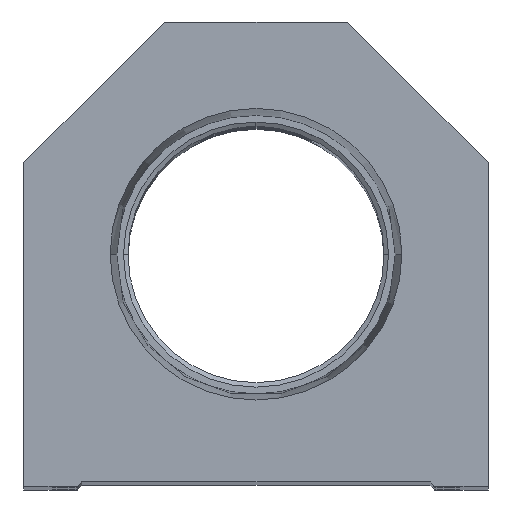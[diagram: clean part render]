
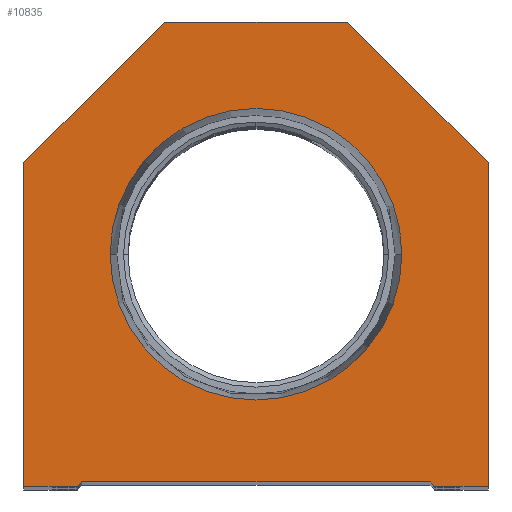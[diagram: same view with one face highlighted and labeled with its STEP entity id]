
A CAD part, top view. The second image highlights one B-rep face of the part: STEP entity #10835.
In plain terms, the highlighted planar face has unit normal (0, 0, 1).
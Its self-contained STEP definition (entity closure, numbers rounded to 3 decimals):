
#148 = CARTESIAN_POINT ( 'NONE',  ( 25.4, 0., 0. ) ) ;
#389 = CARTESIAN_POINT ( 'NONE',  ( 0., 0., 0. ) ) ;
#467 = DIRECTION ( 'NONE',  ( 1., 0., 0. ) ) ;
#590 = VECTOR ( 'NONE', #3143, 1000. ) ;
#602 = LINE ( 'NONE', #10429, #590 ) ;
#1099 = EDGE_CURVE ( 'NONE', #14783, #13867, #1332, .T. ) ;
#1166 = EDGE_CURVE ( 'NONE', #13884, #5005, #5475, .T. ) ;
#1174 = CARTESIAN_POINT ( 'NONE',  ( -19.05, 0.5, 0. ) ) ;
#1246 = EDGE_CURVE ( 'NONE', #14482, #8454, #11375, .T. ) ;
#1332 = LINE ( 'NONE', #1411, #8098 ) ;
#1411 = CARTESIAN_POINT ( 'NONE',  ( 10., 50.8, 0. ) ) ;
#1944 = CARTESIAN_POINT ( 'NONE',  ( 25.4, 0., 0. ) ) ;
#2073 = LINE ( 'NONE', #7213, #5984 ) ;
#2098 = CARTESIAN_POINT ( 'NONE',  ( -25.4, 0., 0. ) ) ;
#2430 = PLANE ( 'NONE',  #6440 ) ;
#2589 = CARTESIAN_POINT ( 'NONE',  ( 0., 25.4, 0. ) ) ;
#2915 = CARTESIAN_POINT ( 'NONE',  ( -19.05, 0.5, 0. ) ) ;
#2960 = EDGE_CURVE ( 'NONE', #12139, #7264, #5821, .T. ) ;
#2972 = LINE ( 'NONE', #10954, #15954 ) ;
#3143 = DIRECTION ( 'NONE',  ( 0.707, -0.707, 0. ) ) ;
#3161 = EDGE_CURVE ( 'NONE', #15812, #7886, #602, .T. ) ;
#3485 = CARTESIAN_POINT ( 'NONE',  ( 15.947, 25.4, 0. ) ) ;
#3848 = DIRECTION ( 'NONE',  ( 0., 0., 1. ) ) ;
#3873 = CARTESIAN_POINT ( 'NONE',  ( 25.4, 35.4, 0. ) ) ;
#3983 = EDGE_CURVE ( 'NONE', #8454, #15812, #9752, .T. ) ;
#4043 = EDGE_CURVE ( 'NONE', #13867, #10353, #2073, .T. ) ;
#4115 = DIRECTION ( 'NONE',  ( 1., 0., 0. ) ) ;
#4137 = DIRECTION ( 'NONE',  ( 0., 0., 1. ) ) ;
#4208 = EDGE_CURVE ( 'NONE', #10353, #6887, #2972, .T. ) ;
#4217 = CARTESIAN_POINT ( 'NONE',  ( 0., 25.4, 0. ) ) ;
#4384 = ORIENTED_EDGE ( 'NONE', *, *, #14925, .T. ) ;
#5005 = VERTEX_POINT ( 'NONE', #8925 ) ;
#5160 = DIRECTION ( 'NONE',  ( -1., 0., 0. ) ) ;
#5475 = CIRCLE ( 'NONE', #11794, 15.947 ) ;
#5588 = CARTESIAN_POINT ( 'NONE',  ( -19.05, 0., 0. ) ) ;
#5600 = ORIENTED_EDGE ( 'NONE', *, *, #8706, .F. ) ;
#5679 = LINE ( 'NONE', #8070, #11700 ) ;
#5793 = ORIENTED_EDGE ( 'NONE', *, *, #9949, .T. ) ;
#5821 = LINE ( 'NONE', #1944, #14286 ) ;
#5984 = VECTOR ( 'NONE', #13631, 1000. ) ;
#6440 = AXIS2_PLACEMENT_3D ( 'NONE', #389, #7972, #14395 ) ;
#6537 = CARTESIAN_POINT ( 'NONE',  ( -25.4, 35.4, 0. ) ) ;
#6887 = VERTEX_POINT ( 'NONE', #2098 ) ;
#7213 = CARTESIAN_POINT ( 'NONE',  ( -25.4, 35.4, 0. ) ) ;
#7264 = VERTEX_POINT ( 'NONE', #12976 ) ;
#7504 = ORIENTED_EDGE ( 'NONE', *, *, #3983, .T. ) ;
#7886 = VERTEX_POINT ( 'NONE', #14246 ) ;
#7910 = DIRECTION ( 'NONE',  ( -0.707, 0.707, 0. ) ) ;
#7972 = DIRECTION ( 'NONE',  ( 0., 0., 1. ) ) ;
#8070 = CARTESIAN_POINT ( 'NONE',  ( 19.05, 0., 0. ) ) ;
#8098 = VECTOR ( 'NONE', #5160, 1000. ) ;
#8454 = VERTEX_POINT ( 'NONE', #2915 ) ;
#8489 = ORIENTED_EDGE ( 'NONE', *, *, #10913, .T. ) ;
#8706 = EDGE_CURVE ( 'NONE', #5005, #13884, #15712, .T. ) ;
#8812 = ORIENTED_EDGE ( 'NONE', *, *, #4043, .T. ) ;
#8925 = CARTESIAN_POINT ( 'NONE',  ( -15.947, 25.4, 0. ) ) ;
#9174 = DIRECTION ( 'NONE',  ( 0., -1., 0. ) ) ;
#9418 = EDGE_LOOP ( 'NONE', ( #12083, #5600 ) ) ;
#9493 = CARTESIAN_POINT ( 'NONE',  ( -19.55, 0., 0. ) ) ;
#9598 = DIRECTION ( 'NONE',  ( 1., 0., 0. ) ) ;
#9752 = LINE ( 'NONE', #1174, #13609 ) ;
#9949 = EDGE_CURVE ( 'NONE', #7886, #12139, #5679, .T. ) ;
#10291 = CARTESIAN_POINT ( 'NONE',  ( -9.775, 9.775, 0. ) ) ;
#10353 = VERTEX_POINT ( 'NONE', #6537 ) ;
#10429 = CARTESIAN_POINT ( 'NONE',  ( 9.775, 9.775, 0. ) ) ;
#10637 = CARTESIAN_POINT ( 'NONE',  ( 10., 50.8, 0. ) ) ;
#10835 = ADVANCED_FACE ( 'NONE', ( #16227, #13747 ), #2430, .T. ) ;
#10913 = EDGE_CURVE ( 'NONE', #6887, #14482, #14152, .T. ) ;
#10954 = CARTESIAN_POINT ( 'NONE',  ( -25.4, 0., 0. ) ) ;
#11375 = LINE ( 'NONE', #10291, #13897 ) ;
#11697 = CARTESIAN_POINT ( 'NONE',  ( 19.05, 0.5, 0. ) ) ;
#11700 = VECTOR ( 'NONE', #4115, 1000. ) ;
#11794 = AXIS2_PLACEMENT_3D ( 'NONE', #4217, #4137, #14032 ) ;
#12083 = ORIENTED_EDGE ( 'NONE', *, *, #1166, .F. ) ;
#12139 = VERTEX_POINT ( 'NONE', #148 ) ;
#12301 = AXIS2_PLACEMENT_3D ( 'NONE', #2589, #3848, #13906 ) ;
#12304 = CARTESIAN_POINT ( 'NONE',  ( -10., 50.8, 0. ) ) ;
#12970 = ORIENTED_EDGE ( 'NONE', *, *, #4208, .T. ) ;
#12976 = CARTESIAN_POINT ( 'NONE',  ( 25.4, 35.4, 0. ) ) ;
#13137 = EDGE_LOOP ( 'NONE', ( #8489, #13606, #7504, #15841, #5793, #13910, #4384, #13693, #8812, #12970 ) ) ;
#13174 = DIRECTION ( 'NONE',  ( 0., 1., 0. ) ) ;
#13221 = VECTOR ( 'NONE', #7910, 1000. ) ;
#13606 = ORIENTED_EDGE ( 'NONE', *, *, #1246, .T. ) ;
#13609 = VECTOR ( 'NONE', #9598, 1000. ) ;
#13631 = DIRECTION ( 'NONE',  ( -0.707, -0.707, 0. ) ) ;
#13693 = ORIENTED_EDGE ( 'NONE', *, *, #1099, .T. ) ;
#13747 = FACE_OUTER_BOUND ( 'NONE', #13137, .T. ) ;
#13867 = VERTEX_POINT ( 'NONE', #12304 ) ;
#13884 = VERTEX_POINT ( 'NONE', #3485 ) ;
#13897 = VECTOR ( 'NONE', #14987, 1000. ) ;
#13906 = DIRECTION ( 'NONE',  ( 1., 0., 0. ) ) ;
#13910 = ORIENTED_EDGE ( 'NONE', *, *, #2960, .T. ) ;
#14032 = DIRECTION ( 'NONE',  ( 1., 0., 0. ) ) ;
#14152 = LINE ( 'NONE', #5588, #15624 ) ;
#14246 = CARTESIAN_POINT ( 'NONE',  ( 19.55, 0., 0. ) ) ;
#14286 = VECTOR ( 'NONE', #13174, 1000. ) ;
#14395 = DIRECTION ( 'NONE',  ( 1., 0., 0. ) ) ;
#14482 = VERTEX_POINT ( 'NONE', #9493 ) ;
#14783 = VERTEX_POINT ( 'NONE', #10637 ) ;
#14925 = EDGE_CURVE ( 'NONE', #7264, #14783, #15315, .T. ) ;
#14987 = DIRECTION ( 'NONE',  ( 0.707, 0.707, 0. ) ) ;
#15315 = LINE ( 'NONE', #3873, #13221 ) ;
#15624 = VECTOR ( 'NONE', #467, 1000. ) ;
#15712 = CIRCLE ( 'NONE', #12301, 15.947 ) ;
#15812 = VERTEX_POINT ( 'NONE', #11697 ) ;
#15841 = ORIENTED_EDGE ( 'NONE', *, *, #3161, .T. ) ;
#15954 = VECTOR ( 'NONE', #9174, 1000. ) ;
#16227 = FACE_BOUND ( 'NONE', #9418, .T. ) ;
